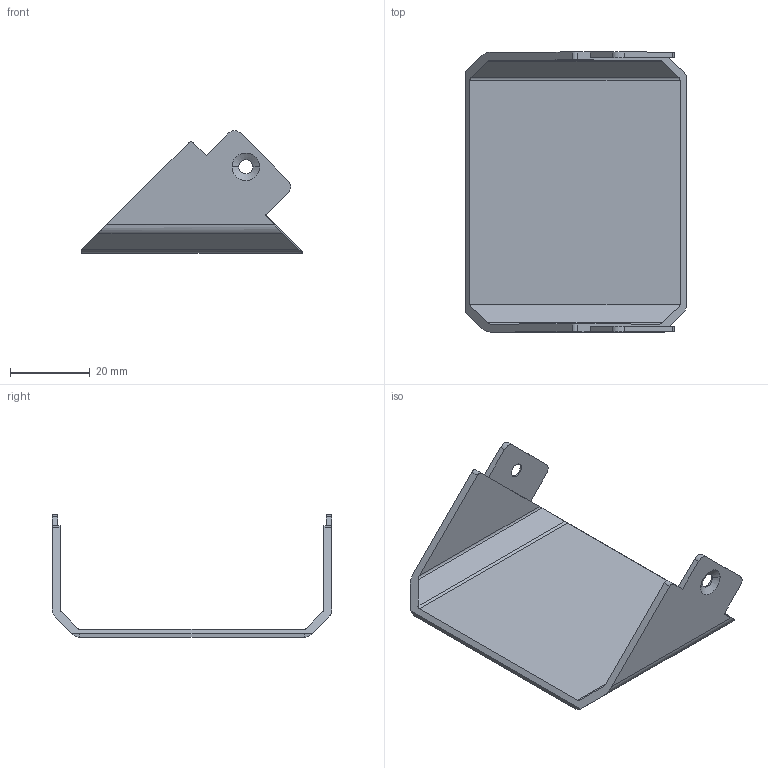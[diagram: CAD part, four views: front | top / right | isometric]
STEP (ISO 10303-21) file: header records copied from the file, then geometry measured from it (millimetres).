
FILE_DESCRIPTION((''),'2;1');
FILE_NAME('DE-11-116534','2025-04-16T10:48:10',('huguozhe'),(''),'CREO PARAMETRIC BY PTC INC, 2020044','CREO PARAMETRIC BY PTC INC, 2020044','');
FILE_SCHEMA(('AUTOMOTIVE_DESIGN { 1 0 10303 214 1 1 1 1 }'));
Length unit declared in the file: millimetre
Products named in the file (1): DE-11-116534
Bounding box: 55.23 x 70.04 x 30.7 mm (x, y, z)
Volume: 10167.1 mm3; surface area: 11064.9 mm2
Topology: 1 solids, 1 shells, 59 faces, 153 edges, 96 vertices
Faces by surface type: plane 33, cylinder 18, cone 4, bspline 4
Entity records: 2632 total; most frequent: CARTESIAN_POINT 700, COLOUR_RGB 424, ORIENTED_EDGE 306, DIRECTION 269, EDGE_CURVE 153, VECTOR 107, LINE 107, VERTEX_POINT 96
